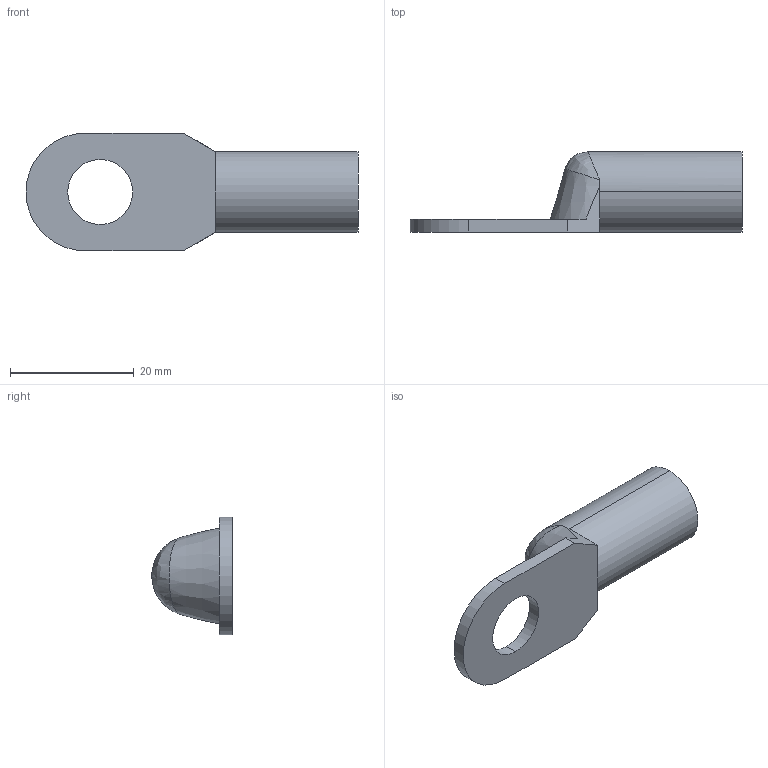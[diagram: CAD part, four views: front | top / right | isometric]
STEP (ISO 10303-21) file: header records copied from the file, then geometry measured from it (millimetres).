
FILE_DESCRIPTION (( 'STEP AP214' ), '1' );
FILE_NAME ('JG-50-10.STEP', '2020-04-24T13:04:34', ( '' ), ( '' ), 'SwSTEP 2.0', 'SolidWorks 2018', '' );
FILE_SCHEMA (( 'AUTOMOTIVE_DESIGN' ));
Length unit declared in the file: millimetre
Products named in the file (1): JG-50-10
Bounding box: 53.7 x 13 x 19 mm (x, y, z)
Volume: 2562.9 mm3; surface area: 3131.2 mm2
Topology: 1 solids, 1 shells, 21 faces, 51 edges, 33 vertices
Faces by surface type: plane 12, cylinder 7, cone 1, bspline 1
Entity records: 909 total; most frequent: CARTESIAN_POINT 379, DIRECTION 102, ORIENTED_EDGE 102, EDGE_CURVE 51, AXIS2_PLACEMENT_3D 38, VERTEX_POINT 33, LINE 26, VECTOR 26
